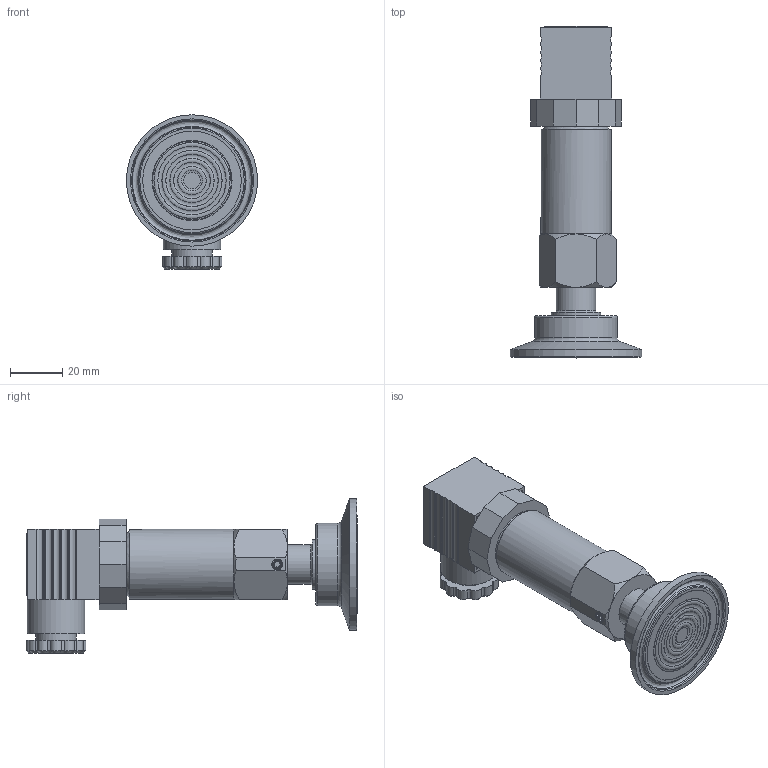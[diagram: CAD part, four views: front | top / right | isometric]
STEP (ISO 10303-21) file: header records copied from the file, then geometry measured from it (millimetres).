
FILE_DESCRIPTION(/* description */ (''),/* implementation_level */ '2;1');
FILE_NAME(/* name */ '40-000047.ipt.stp',/* time_stamp */ '2024-09-19T15:33:40-07:00',/* author */ ('JTrembley'),/* organization */ (''),/* preprocessor_version */ 'ST-DEVELOPER v20',/* originating_system */ 'Autodesk Inventor 2024',/* authorisation */ '');
FILE_SCHEMA (('AUTOMOTIVE_DESIGN { 1 0 10303 214 3 1 1 }'));
Length unit declared in the file: inch
Products named in the file (1): 40-000047
Bounding box: 50.39 x 127.28 x 59.24 mm (x, y, z)
Volume: 64141.6 mm3; surface area: 34939.5 mm2
Topology: 1 solids, 12 shells, 529 faces, 1313 edges, 841 vertices
Faces by surface type: plane 250, cylinder 147, cone 66, torus 43, bspline 21, sphere 2
Full cylindrical faces by diameter (mm): 1.3 x3, 2.381 x1, 2.388 x1, 2.459 x2, 3 x2, 3.5 x1, 3.961 x4, 4.134 x6, 7 x1, 7.8 x1, 8.026 x2, 8.12 x1, 11 x1, 14.152 x4, 15.088 x1, 15.5 x1, 19 x1, 19.05 x1, 20 x1, 21.4 x1, 21.75 x1, 21.8 x1, 22 x1, 22.3 x1, 23 x1, 23.1 x1, 23.917 x1, 24.5 x1, 25.376 x2, 25.908 x1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
Entity records: 24216 total; most frequent: CARTESIAN_POINT 11121, DIRECTION 2651, ORIENTED_EDGE 2624, EDGE_CURVE 1312, AXIS2_PLACEMENT_3D 971, VERTEX_POINT 841, LINE 709, VECTOR 709
